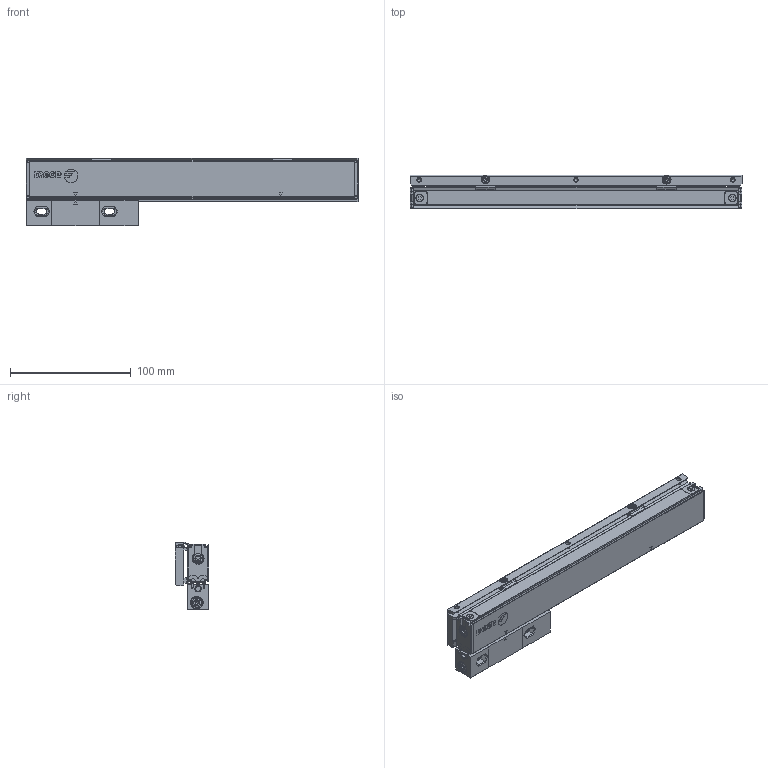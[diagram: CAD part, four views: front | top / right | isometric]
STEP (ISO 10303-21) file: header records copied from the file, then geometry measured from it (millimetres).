
FILE_DESCRIPTION(('Creo Elements/Direct Modeling STEP Export'),'2;1');
FILE_NAME('Regla SV2-170-V01A.stp','2022-11-30T 8:32:19',(''),(''),'Creo Elements/Direct Modeling STEP processor for AP214 (Solid Model)','Creo Elements/Direct Modeling 20.4A 18-Oct-2021 (C) Parametric Technology GmbH','');
FILE_SCHEMA(('AUTOMOTIVE_DESIGN { 1 0 10303 214 1 1 1 1 }'));
Length unit declared in the file: millimetre
Products named in the file (4): SOPORTE_SV3-170; REGLA_SV2-170; CABEZA_RANURADA_REGLA_SV2; REGLA_SV2-170-V01A
Assembly tree (3 placements, depth 2):
  REGLA_SV2-170-V01A
    CABEZA_RANURADA_REGLA_SV2
    REGLA_SV2-170
    SOPORTE_SV3-170
Bounding box: 275 x 28 x 56.2 mm (x, y, z)
Volume: 235216.2 mm3; surface area: 90287.2 mm2
Topology: 3 solids, 10 shells, 1359 faces, 3738 edges, 2436 vertices
Faces by surface type: plane 652, cylinder 487, cone 132, bspline 74, torus 10, sphere 4
Entity records: 52614 total; most frequent: CARTESIAN_POINT 12729, ORIENTED_EDGE 7432, DIRECTION 6287, EDGE_CURVE 3716, VERTEX_POINT 2436, VECTOR 2111, LINE 2111, AXIS2_PLACEMENT_3D 2088
